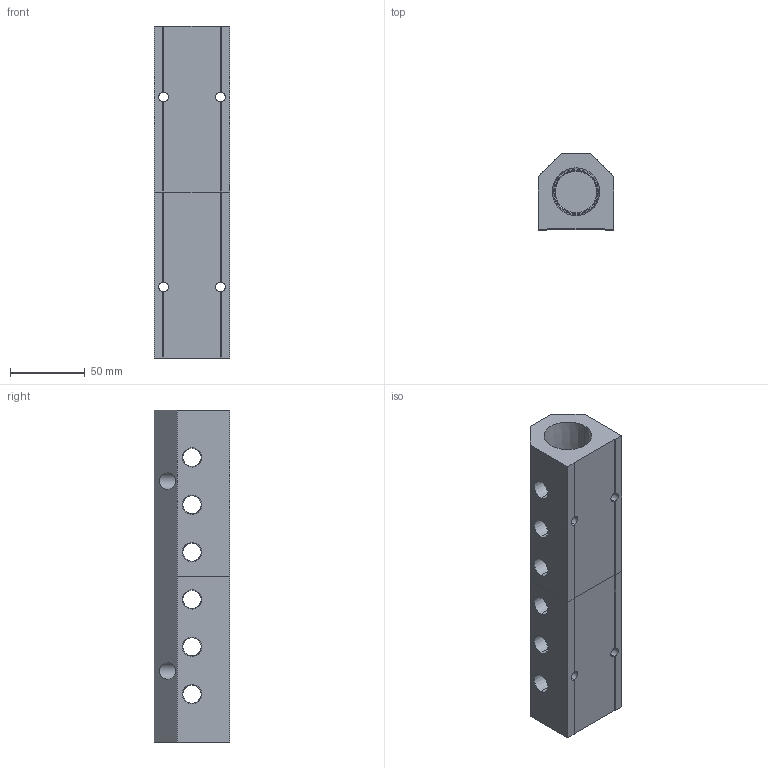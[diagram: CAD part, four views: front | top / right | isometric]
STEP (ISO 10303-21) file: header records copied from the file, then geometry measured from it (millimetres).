
FILE_DESCRIPTION (( 'STEP AP214' ), '1' );
FILE_NAME ('ALM6ACE-N4N16-222RB.STEP', '2023-11-02T06:12:40', ( '' ), ( '' ), 'SwSTEP 2.0', 'SolidWorks 2020', '' );
FILE_SCHEMA (( 'AUTOMOTIVE_DESIGN' ));
Length unit declared in the file: millimetre
Products named in the file (1): ALM6ACE-N4N16-222RB
Bounding box: 50.8 x 50.8 x 222 mm (x, y, z)
Volume: 339858.2 mm3; surface area: 77639.2 mm2
Topology: 2 solids, 2 shells, 375 faces, 998 edges, 652 vertices
Faces by surface type: plane 245, bspline 62, cone 44, cylinder 24
Entity records: 20526 total; most frequent: CARTESIAN_POINT 8052, ORIENTED_EDGE 1996, DIRECTION 1534, EDGE_CURVE 998, VECTOR 738, LINE 738, VERTEX_POINT 652, EDGE_LOOP 444
